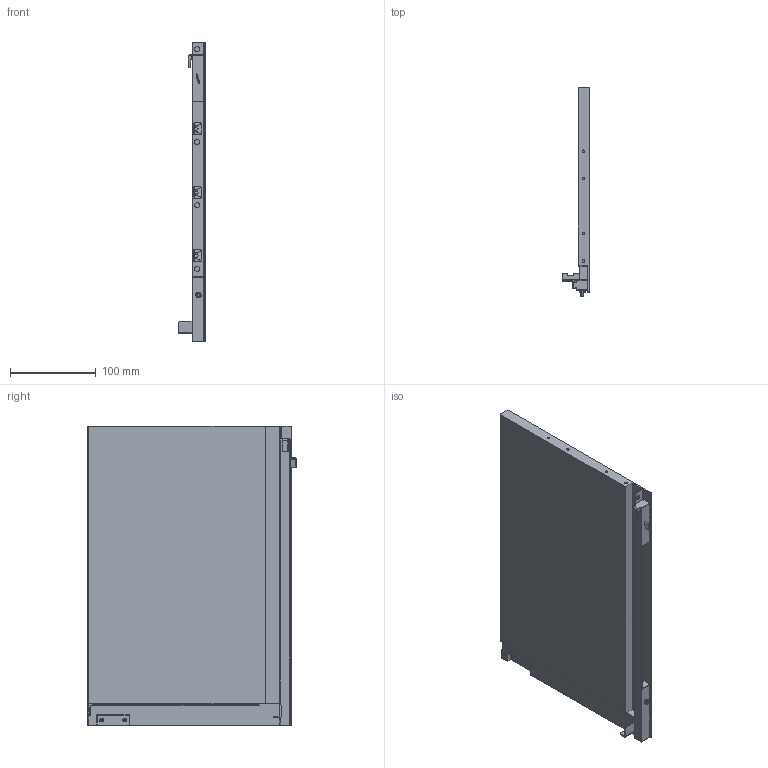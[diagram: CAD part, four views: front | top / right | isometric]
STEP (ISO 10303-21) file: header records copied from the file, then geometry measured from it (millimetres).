
FILE_DESCRIPTION (( 'STEP AP203' ), '1' );
FILE_NAME ('HT143501-R.STEP', '2021-03-16T02:39:50', ( 'Users' ), ( 'Microsoft' ), 'SwSTEP 2.0', 'SolidWorks 2018', '' );
FILE_SCHEMA (( 'CONFIG_CONTROL_DESIGN' ));
Length unit declared in the file: millimetre
Products named in the file (1): HT143501-R
Bounding box: 31.3 x 243 x 349 mm (x, y, z)
Volume: 973739.2 mm3; surface area: 202084.9 mm2
Topology: 1 solids, 8 shells, 408 faces, 1031 edges, 641 vertices
Faces by surface type: plane 201, cylinder 143, torus 29, bspline 23, cone 6, sphere 6
Entity records: 12712 total; most frequent: CARTESIAN_POINT 2976, ORIENTED_EDGE 2044, DIRECTION 1979, EDGE_CURVE 1022, AXIS2_PLACEMENT_3D 674, VERTEX_POINT 641, LINE 631, VECTOR 631
